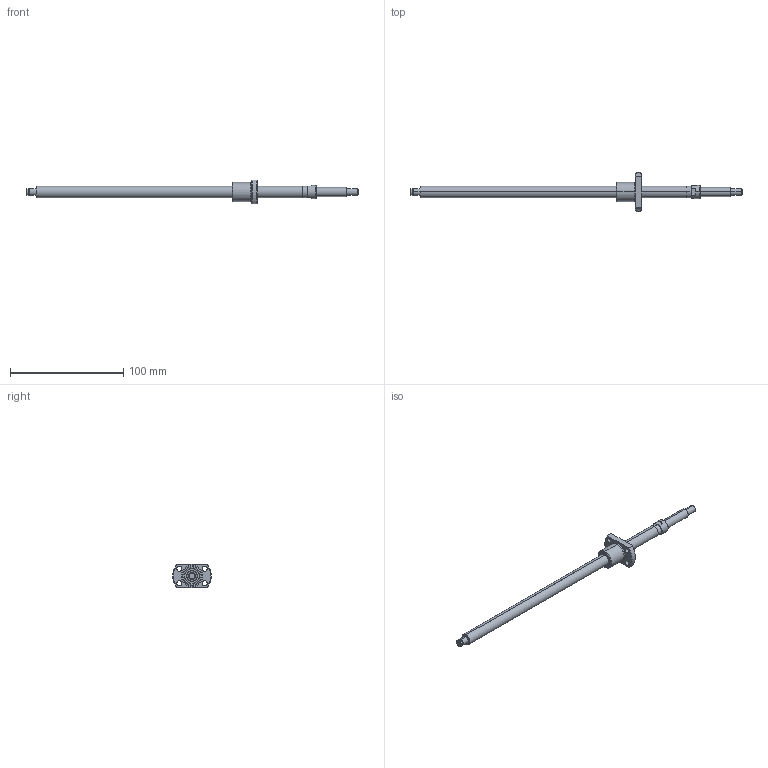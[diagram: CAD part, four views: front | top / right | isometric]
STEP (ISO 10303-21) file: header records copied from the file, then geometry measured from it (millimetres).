
FILE_DESCRIPTION (( 'STEP AP214' ), '1' );
FILE_NAME ('BS1002K-3D.STEP', '2014-03-05T15:11:26', ( '' ), ( '' ), 'SwSTEP 2.0', 'SolidWorks 2012', '' );
FILE_SCHEMA (( 'AUTOMOTIVE_DESIGN' ));
Length unit declared in the file: millimetre
Products named in the file (3): BS1002Kナット; BS1002KŽ²; BS1002K-3D
Assembly tree (2 placements, depth 2):
  BS1002K-3D
    BS1002KŽ²
    BS1002Kナット
Bounding box: 293 x 34 x 21 mm (x, y, z)
Volume: 41279.5 mm3; surface area: 20000 mm2
Topology: 5 solids, 5 shells, 102 faces, 220 edges, 140 vertices
Faces by surface type: cylinder 48, plane 28, cone 26
Entity records: 2987 total; most frequent: DIRECTION 548, CARTESIAN_POINT 503, ORIENTED_EDGE 440, AXIS2_PLACEMENT_3D 233, EDGE_CURVE 220, VERTEX_POINT 140, EDGE_LOOP 128, CIRCLE 126
